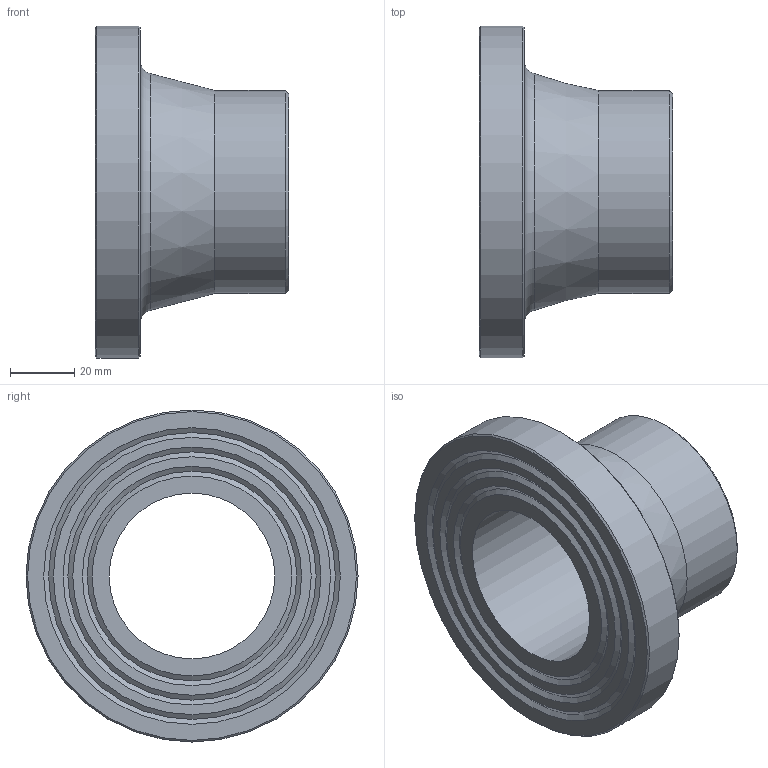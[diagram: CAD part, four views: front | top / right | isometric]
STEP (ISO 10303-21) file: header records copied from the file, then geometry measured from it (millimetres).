
FILE_DESCRIPTION(/* description */ ('Unknown'),/* implementation_level */ '2;1');
FILE_NAME(/* name */ 'CCP063C',/* time_stamp */ '2022-04-04T14:36:07+02:00',/* author */ ('Unknown'),/* organization */ ('Unknown'),/* preprocessor_version */ 'ST-DEVELOPER v18.1',/* originating_system */ 'Solid Edge',/* authorisation */ 'Unknown');
FILE_SCHEMA (('AUTOMOTIVE_DESIGN {1 0 10303 214 3 1 1}'));
Length unit declared in the file: millimetre
Products named in the file (1): CCP063C
Bounding box: 60 x 103 x 103 mm (x, y, z)
Volume: 149132 mm3; surface area: 35141 mm2
Topology: 1 solids, 1 shells, 20 faces, 35 edges, 21 vertices
Faces by surface type: cone 10, plane 6, cylinder 3, torus 1
Full cylindrical faces by diameter (mm): 51.4 x1, 63 x1, 103 x1
Entity records: 438 total; most frequent: DIRECTION 82, CARTESIAN_POINT 61, AXIS2_PLACEMENT_3D 41, ORIENTED_EDGE 40, EDGE_LOOP 40, FACE_BOUND 40, EDGE_CURVE 20, VERTEX_POINT 20
